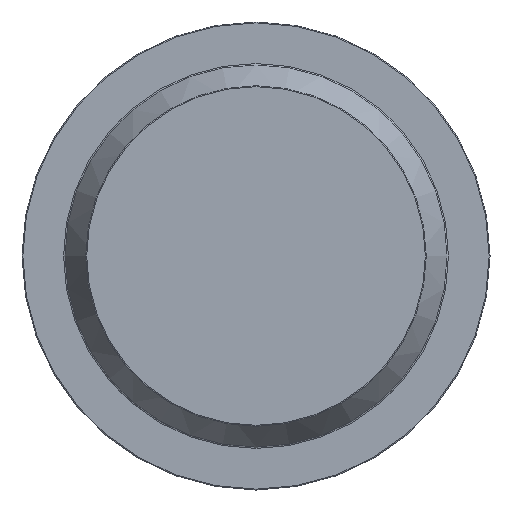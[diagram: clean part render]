
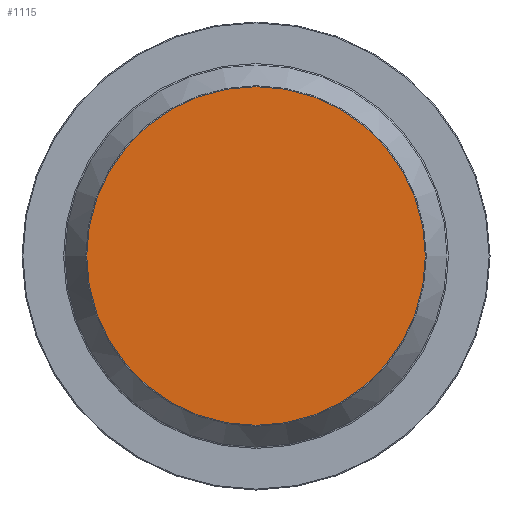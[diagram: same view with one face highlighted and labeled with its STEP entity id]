
A CAD part, left-side view. The second image highlights one B-rep face of the part: STEP entity #1115.
In plain terms, the highlighted planar face has unit normal (-1, 0, 0).
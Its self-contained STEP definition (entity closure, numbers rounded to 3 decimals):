
#1092=CARTESIAN_POINT('',(0.0,199.0,0.0));
#1093=VERTEX_POINT('',#1092);
#1094=CARTESIAN_POINT('',(0.0,0.0,0.0));
#1095=DIRECTION('',(1.0,0.0,0.0));
#1096=DIRECTION('',(0.0,-1.0,0.0));
#1097=AXIS2_PLACEMENT_3D('',#1094,#1095,#1096);
#1098=CIRCLE('',#1097,199.0);
#1099=EDGE_CURVE('',#1093,#1093,#1098,.T.);
#1107=CARTESIAN_POINT('',(0.0,157.819,0.));
#1108=DIRECTION('',(-1.0,0.0,0.0));
#1109=DIRECTION('',(0.0,0.0,1.0));
#1110=AXIS2_PLACEMENT_3D('',#1107,#1108,#1109);
#1111=PLANE('',#1110);
#1112=ORIENTED_EDGE('',*,*,#1099,.F.);
#1113=EDGE_LOOP('',(#1112));
#1114=FACE_OUTER_BOUND('',#1113,.T.);
#1115=ADVANCED_FACE('',(#1114),#1111,.T.);
